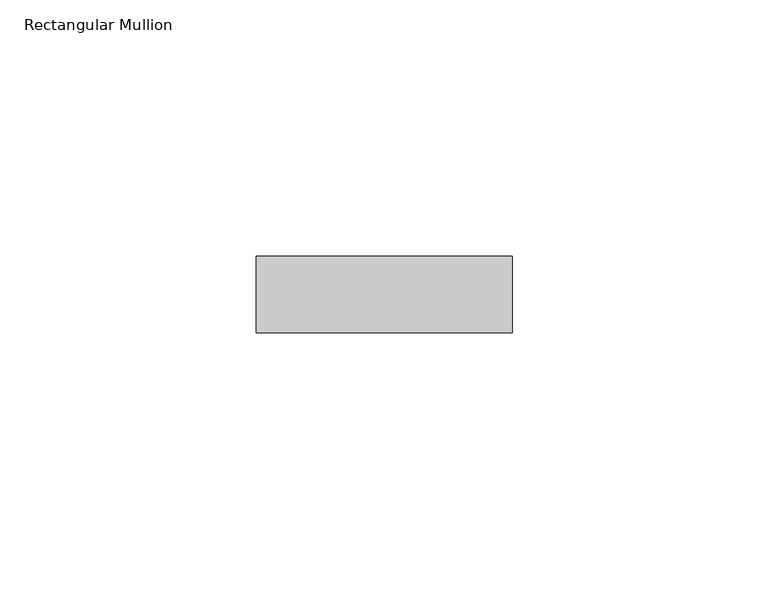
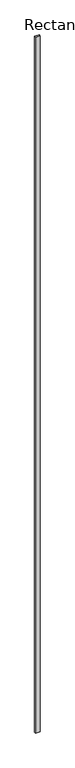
"""IFC4 building model written with IfcOpenShell, lengths in millimetres: member geometry, Rectangular Mullion : Ripa."""

from ifc_helpers import new_model, si_unit, frame, origin, place, context, project, spatial, polyline, outline, extrude, source, transform, mapped, element, save


def rectangular_mullion_1995deed(model_context):
    return source(origin(), model_context, "Body", "SweptSolid", [
        extrude(outline(polyline([(-50.0, -75.0), (-50.0, -60.0), (0.0, -60.0), (0.0, -75.0), (-50.0, -75.0)])), frame((0.0, 0.0, -8000.0), z_axis=(0.0, 0.0, 1.0), x_axis=(1.0, 0.0, 0.0)), (0.0, 0.0, 1.0), 8000.0),
    ])


if __name__ == "__main__":
    model = new_model("IFC4")
    model_context = context("Model", 3, world=origin())
    ifc_project = project(units=[si_unit("LENGTHUNIT", "METRE", prefix="MILLI")], contexts=[model_context])
    site = spatial("IfcSite", under=ifc_project)
    building = spatial("IfcBuilding", under=site)
    placement = place(None, origin())
    rectangular_mullion_shape = rectangular_mullion_1995deed(model_context)
    element("IfcMember", 1, ObjectType="Rectangular Mullion : Ripa", at=placement, inside=building, context=model_context, shape_type="MappedRepresentation", body=[
        mapped(rectangular_mullion_shape, transform((0.0, 0.0, 0.0), x_axis=(1.0, 0.0, 0.0), y_axis=(0.0, 1.0, 0.0), z_axis=(0.0, 0.0, 1.0))),
    ])
    save(model, "model.ifc")
